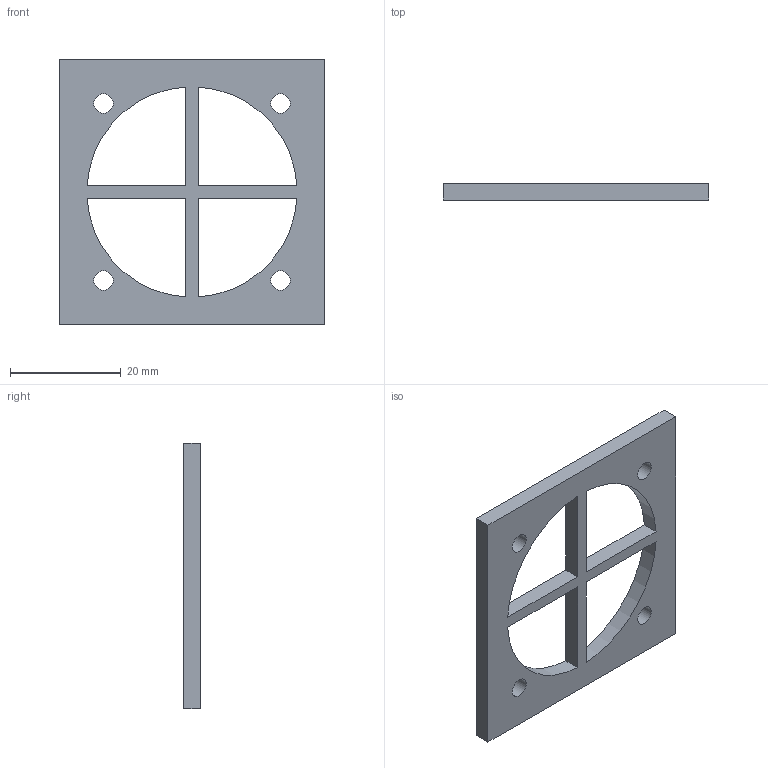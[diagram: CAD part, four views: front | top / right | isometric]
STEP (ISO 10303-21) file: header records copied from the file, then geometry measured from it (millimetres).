
FILE_DESCRIPTION(('Open CASCADE Model'),'2;1');
FILE_NAME('Open CASCADE Shape Model','2026-08-16T15:13:29',('Author'),( 'Open CASCADE'),'Open CASCADE STEP processor 7.9','Open CASCADE 7.9' ,'Unknown');
FILE_SCHEMA(('AUTOMOTIVE_DESIGN { 1 0 10303 214 1 1 1 1 }'));
Length unit declared in the file: millimetre
Products named in the file (1): Open CASCADE STEP translator 7.9 10
Bounding box: 48 x 3 x 48 mm (x, y, z)
Volume: 3881 mm3; surface area: 4055.8 mm2
Topology: 1 solids, 1 shells, 22 faces, 60 edges, 40 vertices
Faces by surface type: plane 14, cylinder 8
Full cylindrical faces by diameter (mm): 3.5 x4
Entity records: 1498 total; most frequent: CARTESIAN_POINT 267, DIRECTION 218, LINE 124, VECTOR 124, ORIENTED_EDGE 120, PCURVE 120, DEFINITIONAL_REPRESENTATION 120, EDGE_CURVE 60
